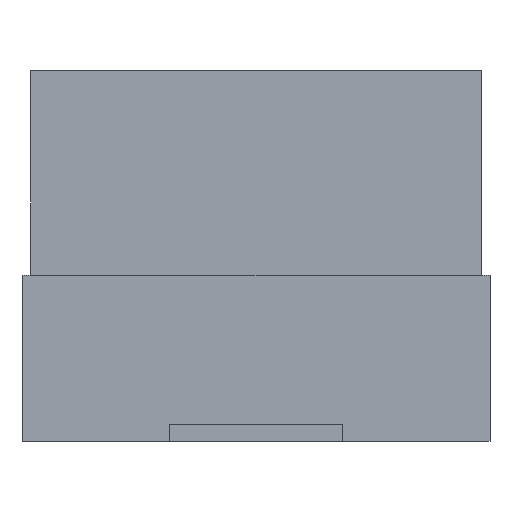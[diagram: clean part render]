
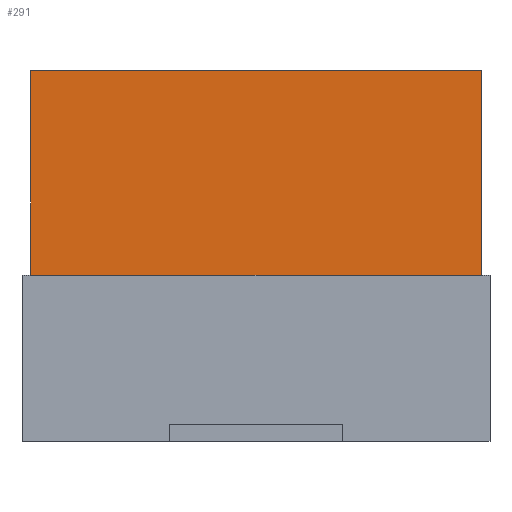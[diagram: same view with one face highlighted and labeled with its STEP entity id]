
A CAD part, left-side view. The second image highlights one B-rep face of the part: STEP entity #291.
In plain terms, the highlighted planar face has unit normal (-1, 0, 0).
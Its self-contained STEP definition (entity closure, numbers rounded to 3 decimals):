
#291=ADVANCED_FACE('',(#1027),#726,.F.);
#726=PLANE('',#8587);
#1027=FACE_OUTER_BOUND('',#1544,.T.);
#1544=EDGE_LOOP('',(#2745,#2746,#2747,#2748));
#2745=ORIENTED_EDGE('',*,*,#5791,.F.);
#2746=ORIENTED_EDGE('',*,*,#5824,.T.);
#2747=ORIENTED_EDGE('',*,*,#5810,.T.);
#2748=ORIENTED_EDGE('',*,*,#5819,.T.);
#4995=VERTEX_POINT('',#11484);
#4996=VERTEX_POINT('',#11486);
#5004=VERTEX_POINT('',#11510);
#5007=VERTEX_POINT('',#11518);
#5791=EDGE_CURVE('',#4995,#4996,#6850,.T.);
#5810=EDGE_CURVE('',#5004,#5007,#6864,.T.);
#5819=EDGE_CURVE('',#5007,#4996,#6873,.T.);
#5824=EDGE_CURVE('',#4995,#5004,#6877,.T.);
#6850=LINE('',#11485,#7745);
#6864=LINE('',#11519,#7759);
#6873=LINE('',#11533,#7768);
#6877=LINE('',#11542,#7772);
#7745=VECTOR('',#9177,1.);
#7759=VECTOR('',#9207,1.);
#7768=VECTOR('',#9220,1.);
#7772=VECTOR('',#9230,1.);
#8587=AXIS2_PLACEMENT_3D('',#11543,#9231,#9232);
#9177=DIRECTION('',(0.,0.,-1.));
#9207=DIRECTION('',(0.,0.,-1.));
#9220=DIRECTION('',(0.,-1.,0.));
#9230=DIRECTION('',(0.,1.,0.));
#9231=DIRECTION('',(1.,0.,0.));
#9232=DIRECTION('',(0.,0.,-1.));
#11484=CARTESIAN_POINT('',(-12.4,-7.75,11.49));
#11485=CARTESIAN_POINT('',(-12.4,-7.75,11.5));
#11486=CARTESIAN_POINT('',(-12.4,-7.75,5.6));
#11510=CARTESIAN_POINT('',(-12.4,5.25,11.49));
#11518=CARTESIAN_POINT('',(-12.4,5.25,5.6));
#11519=CARTESIAN_POINT('',(-12.4,5.25,11.5));
#11533=CARTESIAN_POINT('',(-12.4,5.25,5.6));
#11542=CARTESIAN_POINT('',(-12.4,-7.75,11.49));
#11543=CARTESIAN_POINT('',(-12.4,5.25,11.5));
